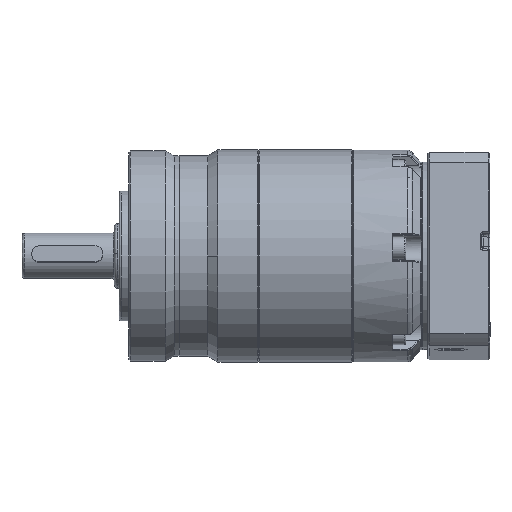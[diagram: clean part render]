
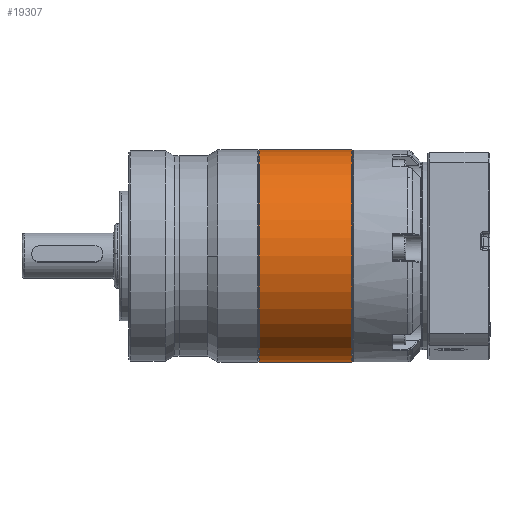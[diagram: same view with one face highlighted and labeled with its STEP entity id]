
A CAD part, front view. The second image highlights one B-rep face of the part: STEP entity #19307.
In plain terms, the highlighted cylindrical face has radius 32.75 mm (diameter 65.5 mm), a partial arc.
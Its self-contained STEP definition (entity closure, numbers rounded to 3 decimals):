
#8844 = DIRECTION ( 'NONE',  ( -1., 0., 0. ) ) ;
#9073 = CARTESIAN_POINT ( 'NONE',  ( 0., 0., -32.75 ) ) ;
#11175 = CIRCLE ( 'NONE', #46619, 32.75 ) ;
#13112 = CYLINDRICAL_SURFACE ( 'NONE', #58749, 32.75 ) ;
#14870 = VERTEX_POINT ( 'NONE', #23948 ) ;
#16413 = AXIS2_PLACEMENT_3D ( 'NONE', #24950, #62415, #30362 ) ;
#17016 = DIRECTION ( 'NONE',  ( -1., 0., 0. ) ) ;
#17336 = ORIENTED_EDGE ( 'NONE', *, *, #41539, .T. ) ;
#19307 = ADVANCED_FACE ( 'NONE', ( #46844 ), #13112, .T. ) ;
#23948 = CARTESIAN_POINT ( 'NONE',  ( 3.2, 0., -32.75 ) ) ;
#24950 = CARTESIAN_POINT ( 'NONE',  ( 3.2, 0., 0. ) ) ;
#25322 = ORIENTED_EDGE ( 'NONE', *, *, #37968, .T. ) ;
#26374 = CIRCLE ( 'NONE', #16413, 32.75 ) ;
#29623 = ORIENTED_EDGE ( 'NONE', *, *, #41631, .F. ) ;
#29668 = DIRECTION ( 'NONE',  ( -1., 0., 0. ) ) ;
#30362 = DIRECTION ( 'NONE',  ( 0., 0., -1. ) ) ;
#31786 = VECTOR ( 'NONE', #17016, 1000. ) ;
#33503 = LINE ( 'NONE', #65174, #31786 ) ;
#35737 = CARTESIAN_POINT ( 'NONE',  ( 31.8, 0., 32.75 ) ) ;
#36947 = VERTEX_POINT ( 'NONE', #35737 ) ;
#37017 = EDGE_CURVE ( 'NONE', #55644, #14870, #59971, .T. ) ;
#37952 = DIRECTION ( 'NONE',  ( 0., 0., 1. ) ) ;
#37968 = EDGE_CURVE ( 'NONE', #36947, #44741, #33503, .T. ) ;
#38634 = CARTESIAN_POINT ( 'NONE',  ( 0., 0., 0. ) ) ;
#39087 = DIRECTION ( 'NONE',  ( -1., 0., 0. ) ) ;
#41539 = EDGE_CURVE ( 'NONE', #55644, #36947, #11175, .T. ) ;
#41631 = EDGE_CURVE ( 'NONE', #14870, #44741, #26374, .T. ) ;
#44741 = VERTEX_POINT ( 'NONE', #52605 ) ;
#45774 = VECTOR ( 'NONE', #8844, 1000. ) ;
#46619 = AXIS2_PLACEMENT_3D ( 'NONE', #61728, #29668, #66916 ) ;
#46844 = FACE_OUTER_BOUND ( 'NONE', #56832, .T. ) ;
#52141 = CARTESIAN_POINT ( 'NONE',  ( 31.8, 0., -32.75 ) ) ;
#52605 = CARTESIAN_POINT ( 'NONE',  ( 3.2, 0., 32.75 ) ) ;
#54878 = ORIENTED_EDGE ( 'NONE', *, *, #37017, .F. ) ;
#55644 = VERTEX_POINT ( 'NONE', #52141 ) ;
#56832 = EDGE_LOOP ( 'NONE', ( #54878, #17336, #25322, #29623 ) ) ;
#58749 = AXIS2_PLACEMENT_3D ( 'NONE', #38634, #39087, #37952 ) ;
#59971 = LINE ( 'NONE', #9073, #45774 ) ;
#61728 = CARTESIAN_POINT ( 'NONE',  ( 31.8, 0., 0. ) ) ;
#62415 = DIRECTION ( 'NONE',  ( -1., 0., 0. ) ) ;
#65174 = CARTESIAN_POINT ( 'NONE',  ( 0., 0., 32.75 ) ) ;
#66916 = DIRECTION ( 'NONE',  ( 0., 0., 1. ) ) ;
